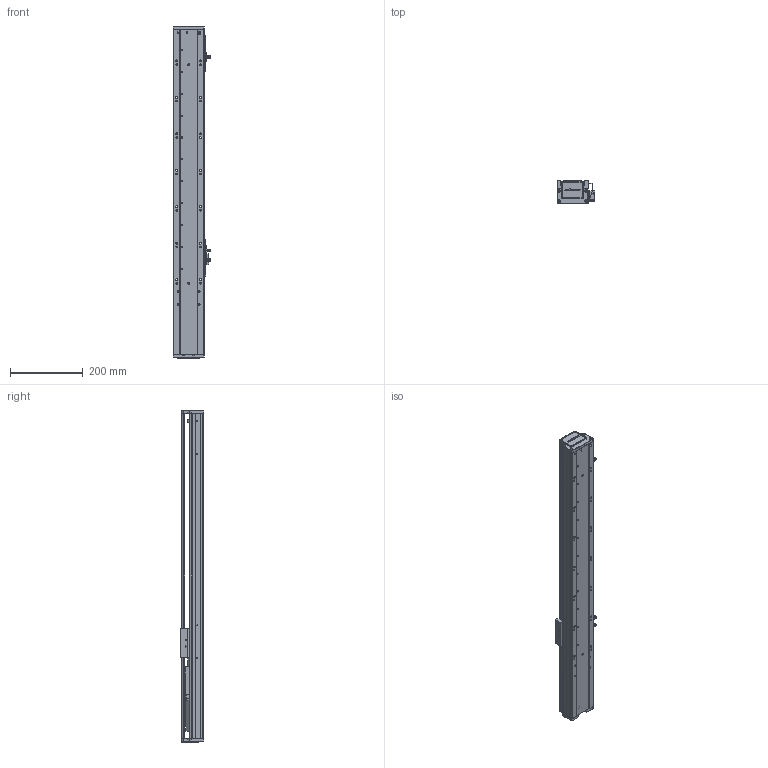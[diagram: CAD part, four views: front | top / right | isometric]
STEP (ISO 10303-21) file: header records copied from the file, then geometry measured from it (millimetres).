
FILE_DESCRIPTION (( 'STEP AP203' ), '1' );
FILE_NAME ('RY80-L1620-300-IK.SLDASM_550.step', '2021-02-22T05:29:03', ( '盈信电脑' ), ( '东莞市道滘镇水果街19号' ), 'SwSTEP 2.0', 'SolidWorks 2012', '' );
FILE_SCHEMA (( 'CONFIG_CONTROL_DESIGN' ));
Products named in the file (14): RY80-L1620-300-IK.SLDASM_550; 滅袉蝶18-24; RY80囀离ヶ啣; 侂狟100W; RY80囀离萇儂啣; 覜茼ん672; RY80俋离覜茼え; 滅袉蝶18-10; 672嫖萇羲壽假蚾釱; RY80綴裔啣; RY80-300倰第奻裔啣-IK_550; RY80萇儂傷盓傅釱; RY80臏賑輸; RY80-300倰第菁釱-IK_550
Assembly tree (16 placements, depth 2):
  RY80-L1620-300-IK.SLDASM_550
    RY80-300倰第菁釱-IK_550
    RY80臏賑輸
    RY80-300倰第奻裔啣-IK_550
    RY80萇儂傷盓傅釱
    RY80綴裔啣
    滅袉蝶18-10
    672嫖萇羲壽假蚾釱  x2
    覜茼ん672  x3
    RY80俋离覜茼え
    侂狟100W
    RY80囀离萇儂啣
    RY80囀离ヶ啣
    滅袉蝶18-24
Bounding box: 103.7 x 65 x 911 mm (x, y, z)
Volume: 1596639.1 mm3; surface area: 664575.8 mm2
Topology: 16 solids, 16 shells, 2087 faces, 5794 edges, 3779 vertices
Faces by surface type: plane 1274, cylinder 675, cone 94, bspline 44
Entity records: 66027 total; most frequent: CARTESIAN_POINT 16681, ORIENTED_EDGE 10308, DIRECTION 9293, EDGE_CURVE 5154, VECTOR 3443, LINE 3443, VERTEX_POINT 3395, AXIS2_PLACEMENT_3D 2925
